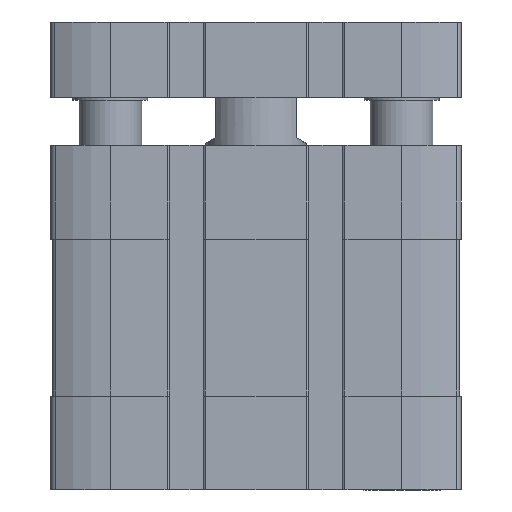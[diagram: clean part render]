
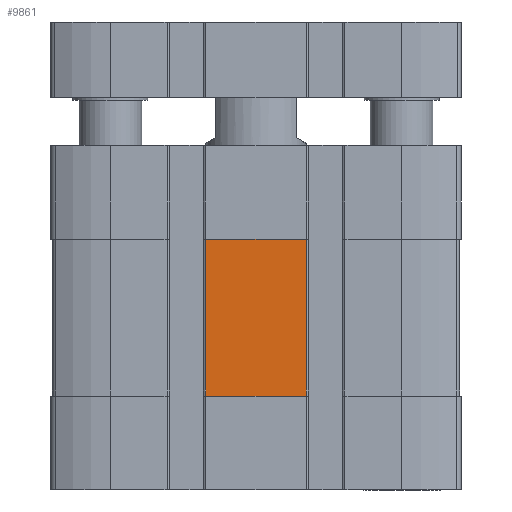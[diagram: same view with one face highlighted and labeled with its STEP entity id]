
A CAD part, left-side view. The second image highlights one B-rep face of the part: STEP entity #9861.
In plain terms, the highlighted planar face has unit normal (-1, 0, 0) as drawn and (0, 1, 0) by its records, which use the part's own axes.
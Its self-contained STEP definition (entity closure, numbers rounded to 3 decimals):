
#1036 = EDGE_CURVE ( 'NONE', #14076, #4505, #22592, .T. ) ;
#1204 = DIRECTION ( 'NONE',  ( -1., 0., 0. ) ) ;
#1697 = DIRECTION ( 'NONE',  ( 0., 0., 1. ) ) ;
#2254 = VECTOR ( 'NONE', #1204, 1000. ) ;
#3021 = CARTESIAN_POINT ( 'NONE',  ( -8., 32.5, -40. ) ) ;
#3872 = DIRECTION ( 'NONE',  ( 1., 0., 0. ) ) ;
#4456 = EDGE_CURVE ( 'NONE', #9286, #7245, #10111, .T. ) ;
#4505 = VERTEX_POINT ( 'NONE', #10288 ) ;
#5114 = CARTESIAN_POINT ( 'NONE',  ( -8., 32.5, -15. ) ) ;
#5248 = CARTESIAN_POINT ( 'NONE',  ( -8., 32.5, -40. ) ) ;
#7013 = CARTESIAN_POINT ( 'NONE',  ( 8., 32.5, -40. ) ) ;
#7037 = DIRECTION ( 'NONE',  ( 0., 0., 1. ) ) ;
#7133 = ORIENTED_EDGE ( 'NONE', *, *, #16449, .T. ) ;
#7194 = FACE_OUTER_BOUND ( 'NONE', #17237, .T. ) ;
#7245 = VERTEX_POINT ( 'NONE', #3021 ) ;
#7381 = CARTESIAN_POINT ( 'NONE',  ( 0., 32.5, -15. ) ) ;
#9286 = VERTEX_POINT ( 'NONE', #10603 ) ;
#9350 = CARTESIAN_POINT ( 'NONE',  ( 8., 32.5, -40. ) ) ;
#9431 = ORIENTED_EDGE ( 'NONE', *, *, #1036, .T. ) ;
#9442 = LINE ( 'NONE', #9350, #18380 ) ;
#9861 = ADVANCED_FACE ( 'NONE', ( #7194 ), #19518, .T. ) ;
#9876 = ORIENTED_EDGE ( 'NONE', *, *, #4456, .T. ) ;
#10111 = LINE ( 'NONE', #11953, #2254 ) ;
#10288 = CARTESIAN_POINT ( 'NONE',  ( 8., 32.5, -15. ) ) ;
#10603 = CARTESIAN_POINT ( 'NONE',  ( 8., 32.5, -40. ) ) ;
#11017 = LINE ( 'NONE', #5248, #19916 ) ;
#11953 = CARTESIAN_POINT ( 'NONE',  ( 8., 32.5, -40. ) ) ;
#12451 = DIRECTION ( 'NONE',  ( 0., 1., 0. ) ) ;
#13711 = AXIS2_PLACEMENT_3D ( 'NONE', #7013, #12451, #1697 ) ;
#14076 = VERTEX_POINT ( 'NONE', #5114 ) ;
#16449 = EDGE_CURVE ( 'NONE', #4505, #9286, #9442, .T. ) ;
#17237 = EDGE_LOOP ( 'NONE', ( #9876, #20835, #9431, #7133 ) ) ;
#17873 = VECTOR ( 'NONE', #3872, 1000. ) ;
#18380 = VECTOR ( 'NONE', #20032, 1000. ) ;
#19020 = EDGE_CURVE ( 'NONE', #7245, #14076, #11017, .T. ) ;
#19518 = PLANE ( 'NONE',  #13711 ) ;
#19916 = VECTOR ( 'NONE', #7037, 1000. ) ;
#20032 = DIRECTION ( 'NONE',  ( 0., 0., -1. ) ) ;
#20835 = ORIENTED_EDGE ( 'NONE', *, *, #19020, .T. ) ;
#22592 = LINE ( 'NONE', #7381, #17873 ) ;
